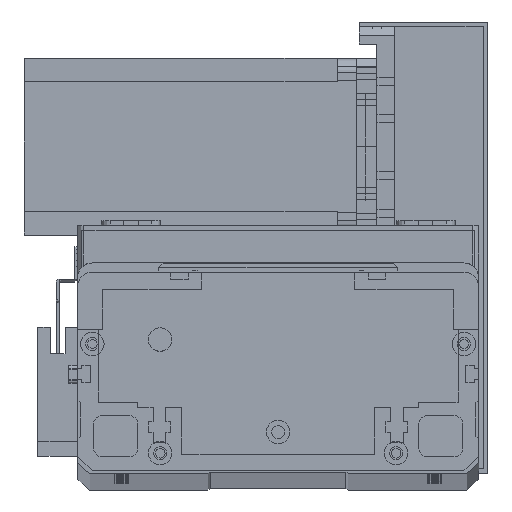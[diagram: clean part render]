
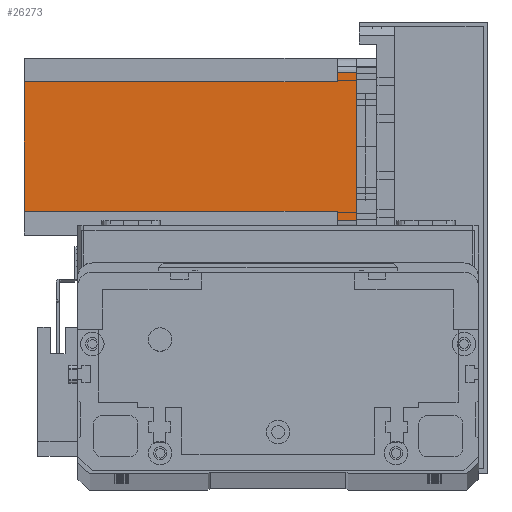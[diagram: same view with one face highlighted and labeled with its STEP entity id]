
A CAD part, top view. The second image highlights one B-rep face of the part: STEP entity #26273.
In plain terms, the highlighted planar face has unit normal (0, 0, 1) as drawn and (0, 1, 0) by its records, which use the part's own axes.
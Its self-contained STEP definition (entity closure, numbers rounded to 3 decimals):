
#1048 = VERTEX_POINT ( 'NONE', #24176 ) ;
#1334 = CARTESIAN_POINT ( 'NONE',  ( 8., 60., -6.5 ) ) ;
#1572 = EDGE_CURVE ( 'NONE', #10647, #17582, #21998, .T. ) ;
#2504 = CARTESIAN_POINT ( 'NONE',  ( 0., 60., -112.5 ) ) ;
#2692 = VERTEX_POINT ( 'NONE', #1334 ) ;
#2980 = CARTESIAN_POINT ( 'NONE',  ( 5., 60., -6.5 ) ) ;
#3229 = EDGE_CURVE ( 'NONE', #2692, #10647, #24903, .T. ) ;
#3235 = LINE ( 'NONE', #23351, #21171 ) ;
#3335 = VECTOR ( 'NONE', #23408, 1000. ) ;
#3971 = ORIENTED_EDGE ( 'NONE', *, *, #6087, .T. ) ;
#4208 = VECTOR ( 'NONE', #13667, 1000. ) ;
#4478 = VECTOR ( 'NONE', #10113, 1000. ) ;
#4684 = ORIENTED_EDGE ( 'NONE', *, *, #6574, .F. ) ;
#4775 = EDGE_CURVE ( 'NONE', #26133, #27665, #8868, .T. ) ;
#4848 = CARTESIAN_POINT ( 'NONE',  ( 0., 60., -112.5 ) ) ;
#6087 = EDGE_CURVE ( 'NONE', #24520, #27665, #18583, .T. ) ;
#6242 = ORIENTED_EDGE ( 'NONE', *, *, #28902, .F. ) ;
#6574 = EDGE_CURVE ( 'NONE', #24520, #17582, #12139, .T. ) ;
#6621 = ORIENTED_EDGE ( 'NONE', *, *, #1572, .T. ) ;
#7448 = PLANE ( 'NONE',  #10257 ) ;
#8868 = LINE ( 'NONE', #14055, #27103 ) ;
#10113 = DIRECTION ( 'NONE',  ( -1., 0., 0. ) ) ;
#10257 = AXIS2_PLACEMENT_3D ( 'NONE', #4848, #14773, #31158 ) ;
#10428 = DIRECTION ( 'NONE',  ( -1., 0., 0. ) ) ;
#10647 = VERTEX_POINT ( 'NONE', #2980 ) ;
#10842 = CARTESIAN_POINT ( 'NONE',  ( 8., 60., -6.5 ) ) ;
#10897 = ORIENTED_EDGE ( 'NONE', *, *, #30332, .T. ) ;
#11123 = LINE ( 'NONE', #2504, #4478 ) ;
#11792 = DIRECTION ( 'NONE',  ( 1., 0., 0. ) ) ;
#11934 = VERTEX_POINT ( 'NONE', #21075 ) ;
#12139 = LINE ( 'NONE', #17009, #24110 ) ;
#12178 = VECTOR ( 'NONE', #10428, 1000. ) ;
#12911 = VECTOR ( 'NONE', #17323, 1000. ) ;
#13267 = CARTESIAN_POINT ( 'NONE',  ( 55., 60., 0. ) ) ;
#13667 = DIRECTION ( 'NONE',  ( 0., 0., 1. ) ) ;
#14055 = CARTESIAN_POINT ( 'NONE',  ( 52., 60., -6.5 ) ) ;
#14601 = ORIENTED_EDGE ( 'NONE', *, *, #31155, .F. ) ;
#14773 = DIRECTION ( 'NONE',  ( 0., 1., 0. ) ) ;
#14785 = CARTESIAN_POINT ( 'NONE',  ( 5., 60., 0. ) ) ;
#14937 = ORIENTED_EDGE ( 'NONE', *, *, #4775, .F. ) ;
#17009 = CARTESIAN_POINT ( 'NONE',  ( 0., 60., 0. ) ) ;
#17323 = DIRECTION ( 'NONE',  ( 0., 0., -1. ) ) ;
#17389 = CARTESIAN_POINT ( 'NONE',  ( 55., 60., -112.5 ) ) ;
#17582 = VERTEX_POINT ( 'NONE', #14785 ) ;
#18583 = LINE ( 'NONE', #17389, #12911 ) ;
#21075 = CARTESIAN_POINT ( 'NONE',  ( 52., 60., -112.5 ) ) ;
#21171 = VECTOR ( 'NONE', #28024, 1000. ) ;
#21342 = CARTESIAN_POINT ( 'NONE',  ( 52., 60., -6.5 ) ) ;
#21998 = LINE ( 'NONE', #22764, #3335 ) ;
#22764 = CARTESIAN_POINT ( 'NONE',  ( 5., 60., -112.5 ) ) ;
#23038 = CARTESIAN_POINT ( 'NONE',  ( 55., 60., -6.5 ) ) ;
#23042 = DIRECTION ( 'NONE',  ( -1., 0., 0. ) ) ;
#23173 = CARTESIAN_POINT ( 'NONE',  ( 52., 60., -112.5 ) ) ;
#23351 = CARTESIAN_POINT ( 'NONE',  ( 8., 60., -112.5 ) ) ;
#23408 = DIRECTION ( 'NONE',  ( 0., 0., 1. ) ) ;
#23612 = LINE ( 'NONE', #23173, #4208 ) ;
#24110 = VECTOR ( 'NONE', #23042, 1000. ) ;
#24176 = CARTESIAN_POINT ( 'NONE',  ( 8., 60., -112.5 ) ) ;
#24520 = VERTEX_POINT ( 'NONE', #13267 ) ;
#24869 = ORIENTED_EDGE ( 'NONE', *, *, #3229, .T. ) ;
#24903 = LINE ( 'NONE', #10842, #12178 ) ;
#26133 = VERTEX_POINT ( 'NONE', #21342 ) ;
#26273 = ADVANCED_FACE ( 'NONE', ( #28857 ), #7448, .T. ) ;
#26330 = EDGE_LOOP ( 'NONE', ( #4684, #3971, #14937, #6242, #10897, #14601, #24869, #6621 ) ) ;
#27103 = VECTOR ( 'NONE', #11792, 1000. ) ;
#27665 = VERTEX_POINT ( 'NONE', #23038 ) ;
#28024 = DIRECTION ( 'NONE',  ( 0., 0., -1. ) ) ;
#28857 = FACE_OUTER_BOUND ( 'NONE', #26330, .T. ) ;
#28902 = EDGE_CURVE ( 'NONE', #11934, #26133, #23612, .T. ) ;
#30332 = EDGE_CURVE ( 'NONE', #11934, #1048, #11123, .T. ) ;
#31155 = EDGE_CURVE ( 'NONE', #2692, #1048, #3235, .T. ) ;
#31158 = DIRECTION ( 'NONE',  ( 0., 0., 1. ) ) ;
